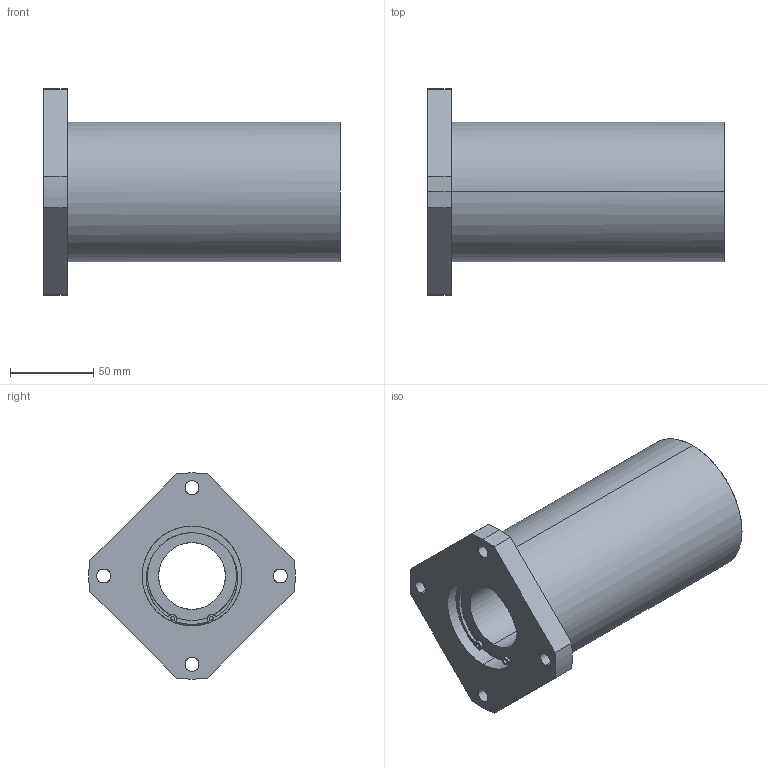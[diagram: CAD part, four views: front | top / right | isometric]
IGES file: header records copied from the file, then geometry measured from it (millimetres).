
Global section: file name: No Iges File Name specified; native system: AutoDesk Inventor R10; preprocessor: AutoDesk Inventor Iges Exporter R10; author: No Author specified; organization: No Organization specified; date: 20101214.135941; units: millimetre
Bounding box: 178 x 123.84 x 124 mm (x, y, z)
Surface area: 100717.4 mm2 (no closed solid volume)
Topology: 0 solids, 0 shells, 119 faces, 852 edges, 852 vertices
Faces by surface type: bspline 119
